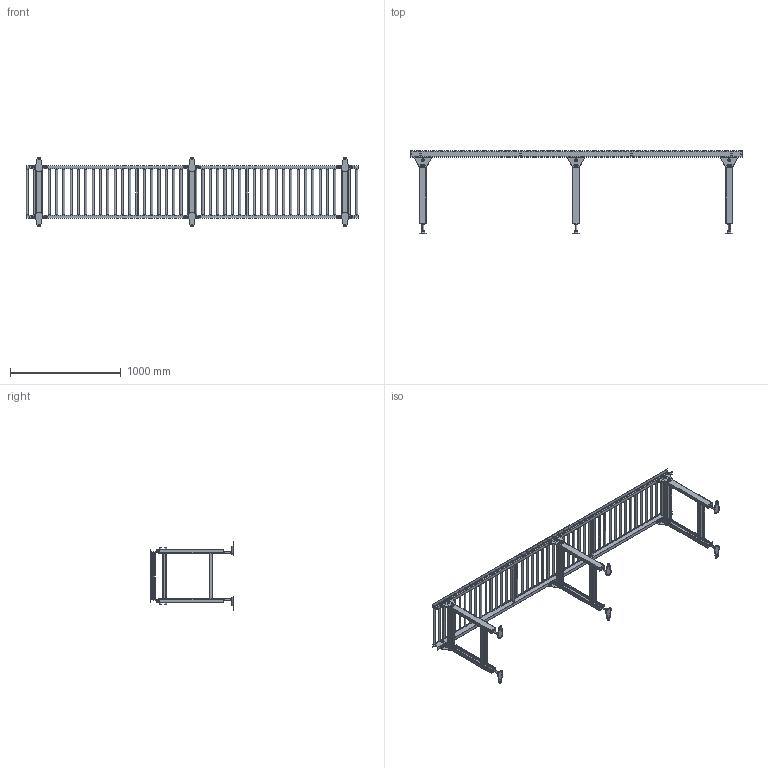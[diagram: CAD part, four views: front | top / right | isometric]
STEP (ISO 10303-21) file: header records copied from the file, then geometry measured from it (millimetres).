
FILE_DESCRIPTION (( 'STEP AP214' ), '1' );
FILE_NAME ('MR-1912-400-66-3000.STEP', '2022-09-27T05:36:55', ( '' ), ( '' ), 'SwSTEP 2.0', 'SolidWorks 2017', '' );
FILE_SCHEMA (( 'AUTOMOTIVE_DESIGN' ));
Length unit declared in the file: millimetre
Products named in the file (1): MR-1912-400-66-3000
Bounding box: 2992 x 749.95 x 629 mm (x, y, z)
Volume: 10193099 mm3; surface area: 4599113.3 mm2
Topology: 16 solids, 16 shells, 2924 faces, 7146 edges, 4636 vertices
Faces by surface type: plane 1692, cylinder 1208, cone 12, bspline 12
Entity records: 121353 total; most frequent: CARTESIAN_POINT 16381, DIRECTION 15706, ORIENTED_EDGE 14292, EDGE_CURVE 7146, AXIS2_PLACEMENT_3D 5701, VERTEX_POINT 4636, LINE 4304, VECTOR 4304
